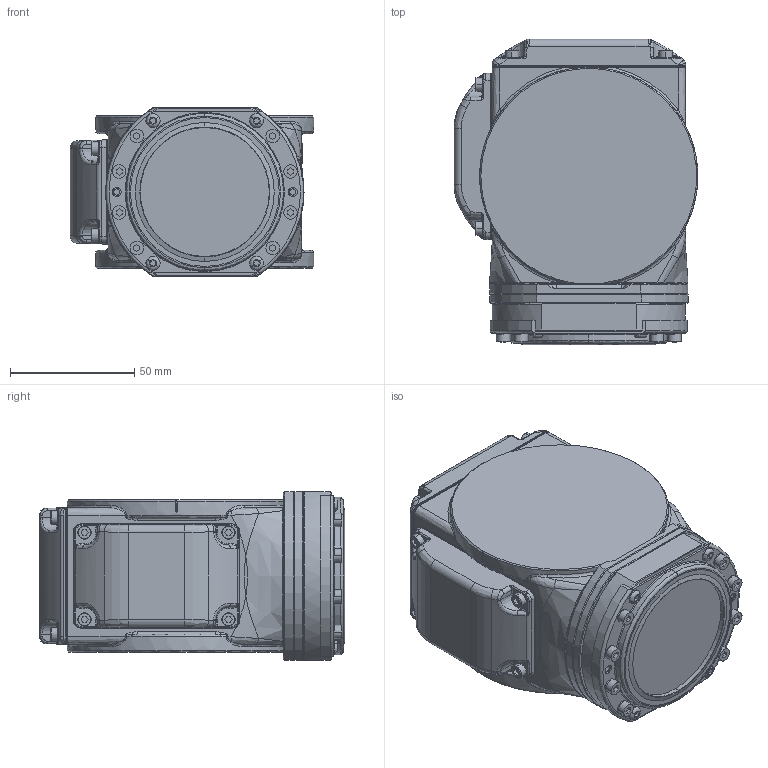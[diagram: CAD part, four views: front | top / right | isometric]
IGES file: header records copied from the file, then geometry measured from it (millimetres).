
Start section:  PTC IGES file: b-axis_view_yr-n1-06vx4-c00.igs
Global section: file name: b-axis_view_yr-n1-06vx4-c00.igs; native system: Creo Parametric by PTC Inc.; preprocessor: 2021072; author: iino20; organization: Unknown; date: 20250827.163359; units: millimetre
Bounding box: 98.3 x 123.2 x 68 mm (x, y, z)
Volume: 589130 mm3; surface area: 48901 mm2
Topology: 1 solids, 1 shells, 1409 faces, 3512 edges, 2204 vertices
Faces by surface type: bspline 940, revolution 469
